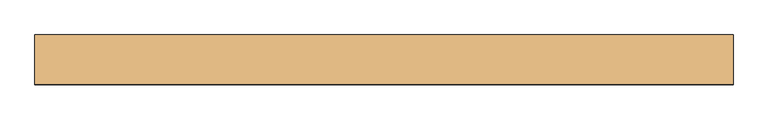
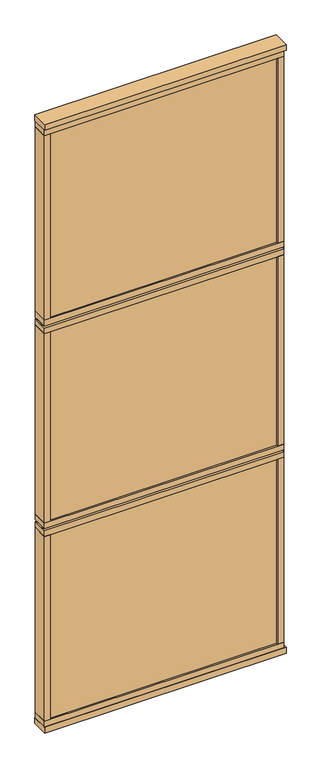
"""IFC4 building model written with IfcOpenShell, lengths in millimetres: door geometry, Mobiliário_Mobiliário de Escritório_Painel de Vidro Duplo - AV3T (Complementar)_Marelli : AV3T - Temperado."""

from ifc_helpers import new_model, si_unit, frame, origin, origin_with_axes, place, context, project, spatial, polyline, outline, extrude, source, transform, mapped, element, save


def door_5bce25ec(model_context):
    return source(origin(), model_context, "Body", "SweptSolid", [
        extrude(outline(polyline([(600.0, 42.5), (600.0, -42.5), (-600.0, -42.5), (-600.0, 42.5), (600.0, 42.5)])), origin_with_axes(), (0.0, 0.0, 1.0), 30.0),
        extrude(outline(polyline([(-570.0, 39.5), (-570.0, -39.5), (-600.0, -39.5), (-600.0, 39.5), (-570.0, 39.5)])), frame((0.0, 0.0, 60.0), z_axis=(0.0, 0.0, 1.0), x_axis=(1.0, 0.0, 0.0)), (0.0, 0.0, 1.0), 971.6666667),
        extrude(outline(polyline([(560.0, 39.5), (590.0, 39.5), (590.0, -39.5), (560.0, -39.5), (560.0, 39.5)])), frame((0.0, 0.0, 60.0), z_axis=(0.0, 0.0, 1.0), x_axis=(1.0, 0.0, 0.0)), (0.0, 0.0, 1.0), 971.6666667),
        extrude(outline(polyline([(590.0, 39.5), (590.0, -39.5), (-600.0, -39.5), (-600.0, 39.5), (590.0, 39.5)])), frame((0.0, 0.0, 30.0), z_axis=(0.0, 0.0, 1.0), x_axis=(1.0, 0.0, 0.0)), (0.0, 0.0, 1.0), 30.0),
        extrude(outline(polyline([(560.0, -25.5), (560.0, -31.5), (-570.0, -31.5), (-570.0, -25.5), (560.0, -25.5)])), frame((0.0, 0.0, 60.0), z_axis=(0.0, 0.0, 1.0), x_axis=(1.0, 0.0, 0.0)), (0.0, 0.0, 1.0), 971.6666667),
        extrude(outline(polyline([(560.0, 31.5), (560.0, 25.5), (-570.0, 25.5), (-570.0, 31.5), (560.0, 31.5)])), frame((0.0, 0.0, 60.0), z_axis=(0.0, 0.0, 1.0), x_axis=(1.0, 0.0, 0.0)), (0.0, 0.0, 1.0), 971.6666667),
        extrude(outline(polyline([(590.0, 39.5), (590.0, -39.5), (-600.0, -39.5), (-600.0, 39.5), (590.0, 39.5)])), frame((0.0, 0.0, 2138.3333333), z_axis=(0.0, 0.0, 1.0), x_axis=(1.0, 0.0, 0.0)), (0.0, 0.0, 1.0), 30.0),
        extrude(outline(polyline([(590.0, 21.5), (590.0, -21.5), (-600.0, -21.5), (-600.0, 21.5), (590.0, 21.5)])), frame((0.0, 0.0, 2128.3333333), z_axis=(0.0, 0.0, 1.0), x_axis=(1.0, 0.0, 0.0)), (0.0, 0.0, 1.0), 10.0),
        extrude(outline(polyline([(590.0, 39.5), (590.0, -39.5), (-600.0, -39.5), (-600.0, 39.5), (590.0, 39.5)])), frame((0.0, 0.0, 2098.3333333), z_axis=(0.0, 0.0, 1.0), x_axis=(1.0, 0.0, 0.0)), (0.0, 0.0, 1.0), 30.0),
        extrude(outline(polyline([(590.0, 21.5), (590.0, -21.5), (-600.0, -21.5), (-600.0, 21.5), (590.0, 21.5)])), frame((0.0, 0.0, 1061.6666667), z_axis=(0.0, 0.0, 1.0), x_axis=(1.0, 0.0, 0.0)), (0.0, 0.0, 1.0), 10.0),
        extrude(outline(polyline([(590.0, 39.5), (590.0, -39.5), (-600.0, -39.5), (-600.0, 39.5), (590.0, 39.5)])), frame((0.0, 0.0, 1071.6666667), z_axis=(0.0, 0.0, 1.0), x_axis=(1.0, 0.0, 0.0)), (0.0, 0.0, 1.0), 30.0),
        extrude(outline(polyline([(590.0, 39.5), (590.0, -39.5), (-600.0, -39.5), (-600.0, 39.5), (590.0, 39.5)])), frame((0.0, 0.0, 1031.6666667), z_axis=(0.0, 0.0, 1.0), x_axis=(1.0, 0.0, 0.0)), (0.0, 0.0, 1.0), 30.0),
        extrude(outline(polyline([(600.0, 42.5), (600.0, -42.5), (-600.0, -42.5), (-600.0, 42.5), (600.0, 42.5)])), frame((0.0, 0.0, 3170.0), z_axis=(0.0, 0.0, 1.0), x_axis=(1.0, 0.0, 0.0)), (0.0, 0.0, 1.0), 30.0),
        extrude(outline(polyline([(590.0, 39.5), (590.0, -39.5), (-600.0, -39.5), (-600.0, 39.5), (590.0, 39.5)])), frame((0.0, 0.0, 3140.0), z_axis=(0.0, 0.0, 1.0), x_axis=(1.0, 0.0, 0.0)), (0.0, 0.0, 1.0), 30.0),
        extrude(outline(polyline([(590.0, -21.5), (590.0, 21.5), (600.0, 21.5), (600.0, -21.5), (590.0, -21.5)])), frame((0.0, 0.0, 30.0), z_axis=(0.0, 0.0, 1.0), x_axis=(1.0, 0.0, 0.0)), (0.0, 0.0, 1.0), 3140.0),
        extrude(outline(polyline([(560.0, -25.5), (560.0, -31.5), (-570.0, -31.5), (-570.0, -25.5), (560.0, -25.5)])), frame((0.0, 0.0, 2168.3333333), z_axis=(0.0, 0.0, 1.0), x_axis=(1.0, 0.0, 0.0)), (0.0, 0.0, 1.0), 971.6666667),
        extrude(outline(polyline([(560.0, 31.5), (560.0, 25.5), (-570.0, 25.5), (-570.0, 31.5), (560.0, 31.5)])), frame((0.0, 0.0, 2168.3333333), z_axis=(0.0, 0.0, 1.0), x_axis=(1.0, 0.0, 0.0)), (0.0, 0.0, 1.0), 971.6666667),
        extrude(outline(polyline([(-570.0, 39.5), (-570.0, -39.5), (-600.0, -39.5), (-600.0, 39.5), (-570.0, 39.5)])), frame((0.0, 0.0, 2168.3333333), z_axis=(0.0, 0.0, 1.0), x_axis=(1.0, 0.0, 0.0)), (0.0, 0.0, 1.0), 971.6666667),
        extrude(outline(polyline([(560.0, 39.5), (590.0, 39.5), (590.0, -39.5), (560.0, -39.5), (560.0, 39.5)])), frame((0.0, 0.0, 2168.3333333), z_axis=(0.0, 0.0, 1.0), x_axis=(1.0, 0.0, 0.0)), (0.0, 0.0, 1.0), 971.6666667),
        extrude(outline(polyline([(560.0, -25.5), (560.0, -31.5), (-570.0, -31.5), (-570.0, -25.5), (560.0, -25.5)])), frame((0.0, 0.0, 1101.6666667), z_axis=(0.0, 0.0, 1.0), x_axis=(1.0, 0.0, 0.0)), (0.0, 0.0, 1.0), 996.6666667),
        extrude(outline(polyline([(560.0, 31.5), (560.0, 25.5), (-570.0, 25.5), (-570.0, 31.5), (560.0, 31.5)])), frame((0.0, 0.0, 1101.6666667), z_axis=(0.0, 0.0, 1.0), x_axis=(1.0, 0.0, 0.0)), (0.0, 0.0, 1.0), 996.6666667),
        extrude(outline(polyline([(-570.0, 39.5), (-570.0, -39.5), (-600.0, -39.5), (-600.0, 39.5), (-570.0, 39.5)])), frame((0.0, 0.0, 1101.6666667), z_axis=(0.0, 0.0, 1.0), x_axis=(1.0, 0.0, 0.0)), (0.0, 0.0, 1.0), 996.6666667),
        extrude(outline(polyline([(560.0, 39.5), (590.0, 39.5), (590.0, -39.5), (560.0, -39.5), (560.0, 39.5)])), frame((0.0, 0.0, 1101.6666667), z_axis=(0.0, 0.0, 1.0), x_axis=(1.0, 0.0, 0.0)), (0.0, 0.0, 1.0), 996.6666667),
    ])


if __name__ == "__main__":
    model = new_model("IFC4")
    model_context = context("Model", 3, world=origin())
    ifc_project = project(units=[si_unit("LENGTHUNIT", "METRE", prefix="MILLI")], contexts=[model_context])
    site = spatial("IfcSite", under=ifc_project)
    building = spatial("IfcBuilding", under=site)
    placement = place(None, origin())
    door_shape = door_5bce25ec(model_context)
    element("IfcDoor", 1, ObjectType="Mobiliário_Mobiliário de Escritório_Painel de Vidro Duplo - AV3T (Complementar)_Marelli : AV3T - Temperado", at=placement, inside=building, context=model_context, shape_type="MappedRepresentation", body=[
        mapped(door_shape, transform((0.0, 0.0, 0.0), x_axis=(1.0, 0.0, 0.0), y_axis=(0.0, 1.0, 0.0), z_axis=(0.0, 0.0, 1.0))),
    ])
    save(model, "model.ifc")
